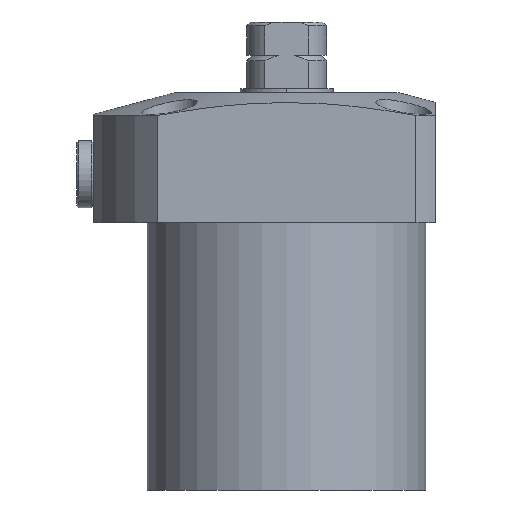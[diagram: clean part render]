
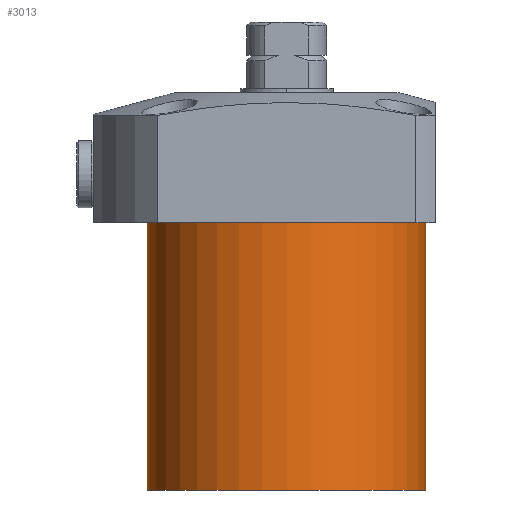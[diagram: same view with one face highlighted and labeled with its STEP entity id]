
A CAD part, front view. The second image highlights one B-rep face of the part: STEP entity #3013.
In plain terms, the highlighted cylindrical face has radius 37.5 mm (diameter 75 mm), a partial arc.
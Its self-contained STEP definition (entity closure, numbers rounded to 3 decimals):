
#276 = CARTESIAN_POINT ( 'NONE',  ( -37.5, 0., -72. ) ) ;
#434 = CIRCLE ( 'NONE', #806, 37.5 ) ;
#455 = LINE ( 'NONE', #9982, #2667 ) ;
#806 = AXIS2_PLACEMENT_3D ( 'NONE', #7931, #6618, #4774 ) ;
#1109 = VERTEX_POINT ( 'NONE', #7317 ) ;
#1314 = VERTEX_POINT ( 'NONE', #11788 ) ;
#1394 = EDGE_CURVE ( 'NONE', #1314, #1109, #434, .T. ) ;
#2170 = DIRECTION ( 'NONE',  ( 0., 0., 1. ) ) ;
#2619 = FACE_OUTER_BOUND ( 'NONE', #10867, .T. ) ;
#2667 = VECTOR ( 'NONE', #10995, 1000. ) ;
#3013 = ADVANCED_FACE ( 'NONE', ( #2619 ), #7460, .T. ) ;
#3116 = VECTOR ( 'NONE', #2170, 1000. ) ;
#3227 = CARTESIAN_POINT ( 'NONE',  ( 0., 0., -72. ) ) ;
#3243 = EDGE_CURVE ( 'NONE', #9705, #4372, #8872, .T. ) ;
#3497 = CARTESIAN_POINT ( 'NONE',  ( 0., 0., 0. ) ) ;
#4372 = VERTEX_POINT ( 'NONE', #8910 ) ;
#4466 = DIRECTION ( 'NONE',  ( 1., 0., 0. ) ) ;
#4601 = AXIS2_PLACEMENT_3D ( 'NONE', #3227, #9082, #7924 ) ;
#4774 = DIRECTION ( 'NONE',  ( 1., 0., 0. ) ) ;
#5084 = ORIENTED_EDGE ( 'NONE', *, *, #3243, .F. ) ;
#5665 = LINE ( 'NONE', #276, #3116 ) ;
#6024 = ORIENTED_EDGE ( 'NONE', *, *, #1394, .T. ) ;
#6618 = DIRECTION ( 'NONE',  ( 0., 0., 1. ) ) ;
#6728 = ORIENTED_EDGE ( 'NONE', *, *, #11414, .T. ) ;
#7187 = AXIS2_PLACEMENT_3D ( 'NONE', #3497, #10332, #4466 ) ;
#7317 = CARTESIAN_POINT ( 'NONE',  ( 37.5, 0., -72. ) ) ;
#7460 = CYLINDRICAL_SURFACE ( 'NONE', #4601, 37.5 ) ;
#7924 = DIRECTION ( 'NONE',  ( 1., 0., 0. ) ) ;
#7931 = CARTESIAN_POINT ( 'NONE',  ( 0., 0., -72. ) ) ;
#8123 = CARTESIAN_POINT ( 'NONE',  ( -37.5, 0., 0. ) ) ;
#8872 = CIRCLE ( 'NONE', #7187, 37.5 ) ;
#8910 = CARTESIAN_POINT ( 'NONE',  ( 37.5, 0., 0. ) ) ;
#9082 = DIRECTION ( 'NONE',  ( 0., 0., 1. ) ) ;
#9529 = ORIENTED_EDGE ( 'NONE', *, *, #11732, .F. ) ;
#9705 = VERTEX_POINT ( 'NONE', #8123 ) ;
#9982 = CARTESIAN_POINT ( 'NONE',  ( 37.5, 0., -72. ) ) ;
#10332 = DIRECTION ( 'NONE',  ( 0., 0., 1. ) ) ;
#10867 = EDGE_LOOP ( 'NONE', ( #9529, #6024, #6728, #5084 ) ) ;
#10995 = DIRECTION ( 'NONE',  ( 0., 0., 1. ) ) ;
#11414 = EDGE_CURVE ( 'NONE', #1109, #4372, #455, .T. ) ;
#11732 = EDGE_CURVE ( 'NONE', #1314, #9705, #5665, .T. ) ;
#11788 = CARTESIAN_POINT ( 'NONE',  ( -37.5, 0., -72. ) ) ;
